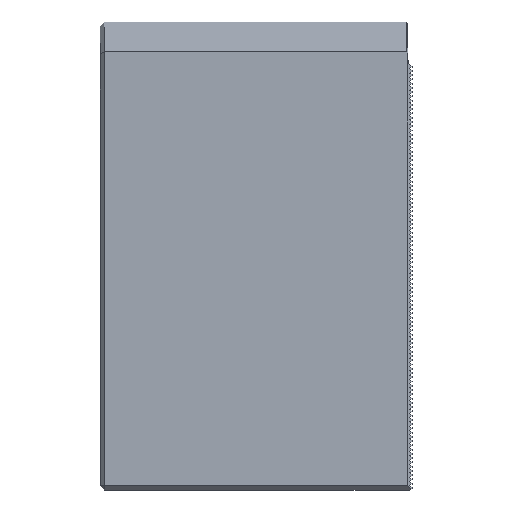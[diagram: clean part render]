
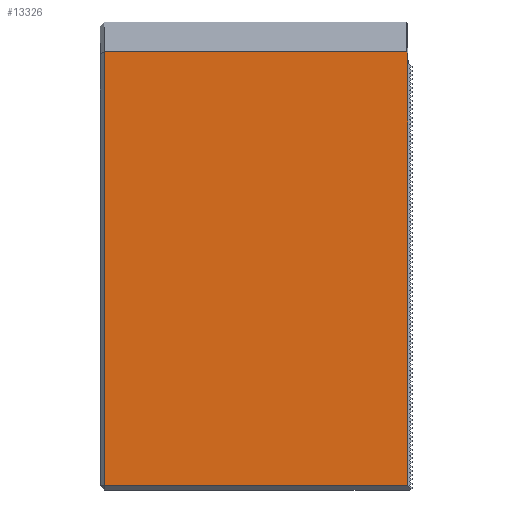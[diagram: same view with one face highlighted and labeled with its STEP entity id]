
A CAD part, left-side view. The second image highlights one B-rep face of the part: STEP entity #13326.
In plain terms, the highlighted planar face has unit normal (-1, 0, 0).
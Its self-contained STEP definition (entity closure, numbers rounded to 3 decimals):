
#674=FACE_OUTER_BOUND('',#1318,.T.);
#1318=EDGE_LOOP('',(#12027,#12028,#12029,#12030,#12031,#12032));
#1330=LINE('',#17212,#3216);
#1341=LINE('',#17233,#3227);
#1375=LINE('',#17301,#3261);
#3181=LINE('',#20931,#5067);
#3211=LINE('',#20984,#5097);
#3212=LINE('',#20986,#5098);
#3216=VECTOR('',#14015,10.);
#3227=VECTOR('',#14032,10.);
#3261=VECTOR('',#14086,10.);
#5067=VECTOR('',#17114,10.);
#5097=VECTOR('',#17172,10.);
#5098=VECTOR('',#17175,10.);
#5102=VERTEX_POINT('',#17209);
#5103=VERTEX_POINT('',#17211);
#5110=VERTEX_POINT('',#17231);
#5133=VERTEX_POINT('',#17294);
#6347=VERTEX_POINT('',#20930);
#6356=VERTEX_POINT('',#20980);
#6362=EDGE_CURVE('',#5102,#5103,#1330,.T.);
#6373=EDGE_CURVE('',#5102,#5110,#1341,.T.);
#6407=EDGE_CURVE('',#5103,#5133,#1375,.T.);
#8221=EDGE_CURVE('',#5133,#6347,#3181,.T.);
#8251=EDGE_CURVE('',#6347,#6356,#3211,.T.);
#8252=EDGE_CURVE('',#6356,#5110,#3212,.T.);
#12027=ORIENTED_EDGE('',*,*,#6362,.F.);
#12028=ORIENTED_EDGE('',*,*,#6373,.T.);
#12029=ORIENTED_EDGE('',*,*,#8252,.F.);
#12030=ORIENTED_EDGE('',*,*,#8251,.F.);
#12031=ORIENTED_EDGE('',*,*,#8221,.F.);
#12032=ORIENTED_EDGE('',*,*,#6407,.F.);
#12686=PLANE('',#13999);
#13326=ADVANCED_FACE('',(#674),#12686,.T.);
#13999=AXIS2_PLACEMENT_3D('',#20990,#17182,#17183);
#14015=DIRECTION('',(0.,-0.655,-0.756));
#14032=DIRECTION('',(0.,1.,0.));
#14086=DIRECTION('',(0.,0.,-1.));
#17114=DIRECTION('',(0.,0.,-1.));
#17172=DIRECTION('',(0.,1.,0.));
#17175=DIRECTION('',(0.,0.,1.));
#17182=DIRECTION('center_axis',(-1.,0.,0.));
#17183=DIRECTION('ref_axis',(0.,0.,1.));
#17209=CARTESIAN_POINT('',(-32.,2.,72.108));
#17211=CARTESIAN_POINT('',(-32.,1.5,71.53));
#17212=CARTESIAN_POINT('',(-32.,-33.041,31.646));
#17231=CARTESIAN_POINT('',(-32.,108.5,72.108));
#17233=CARTESIAN_POINT('',(-32.,0.,72.108));
#17294=CARTESIAN_POINT('',(-32.,1.5,69.5));
#17301=CARTESIAN_POINT('',(-32.,1.5,-41.25));
#20930=CARTESIAN_POINT('',(-32.,1.5,-81.));
#20931=CARTESIAN_POINT('',(-32.,1.5,-41.25));
#20980=CARTESIAN_POINT('',(-32.,108.5,-81.));
#20984=CARTESIAN_POINT('',(-32.,0.,-81.));
#20986=CARTESIAN_POINT('',(-32.,108.5,-41.25));
#20990=CARTESIAN_POINT('Origin',(-32.,0.,-82.5));
